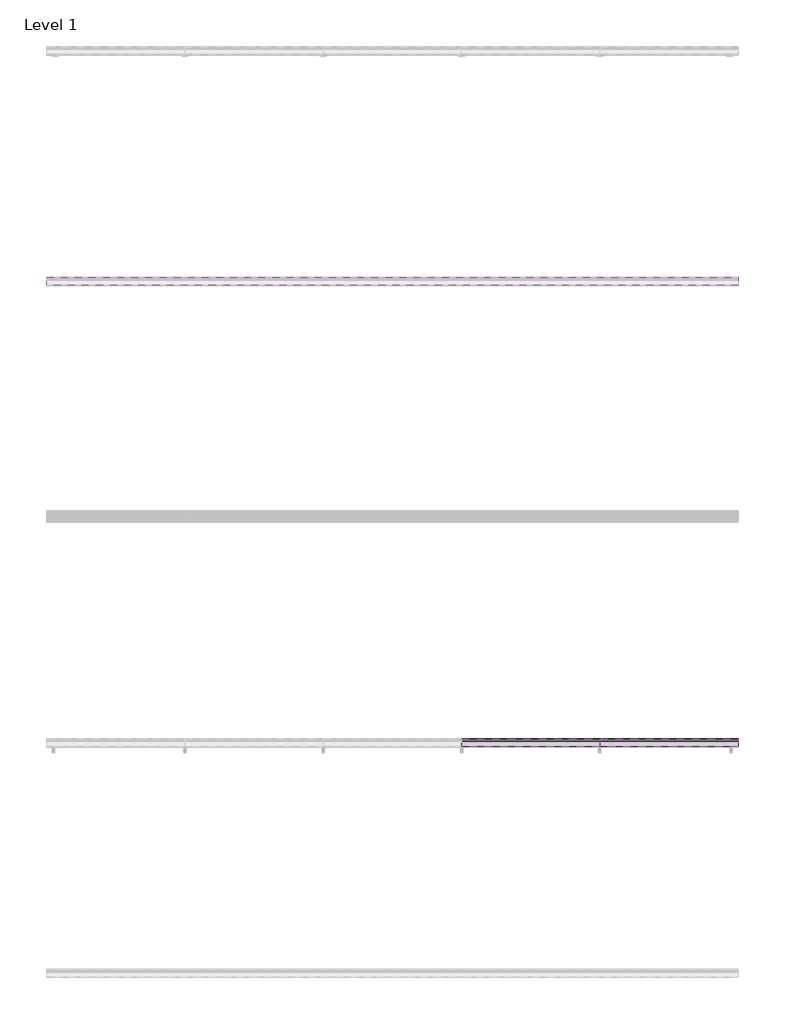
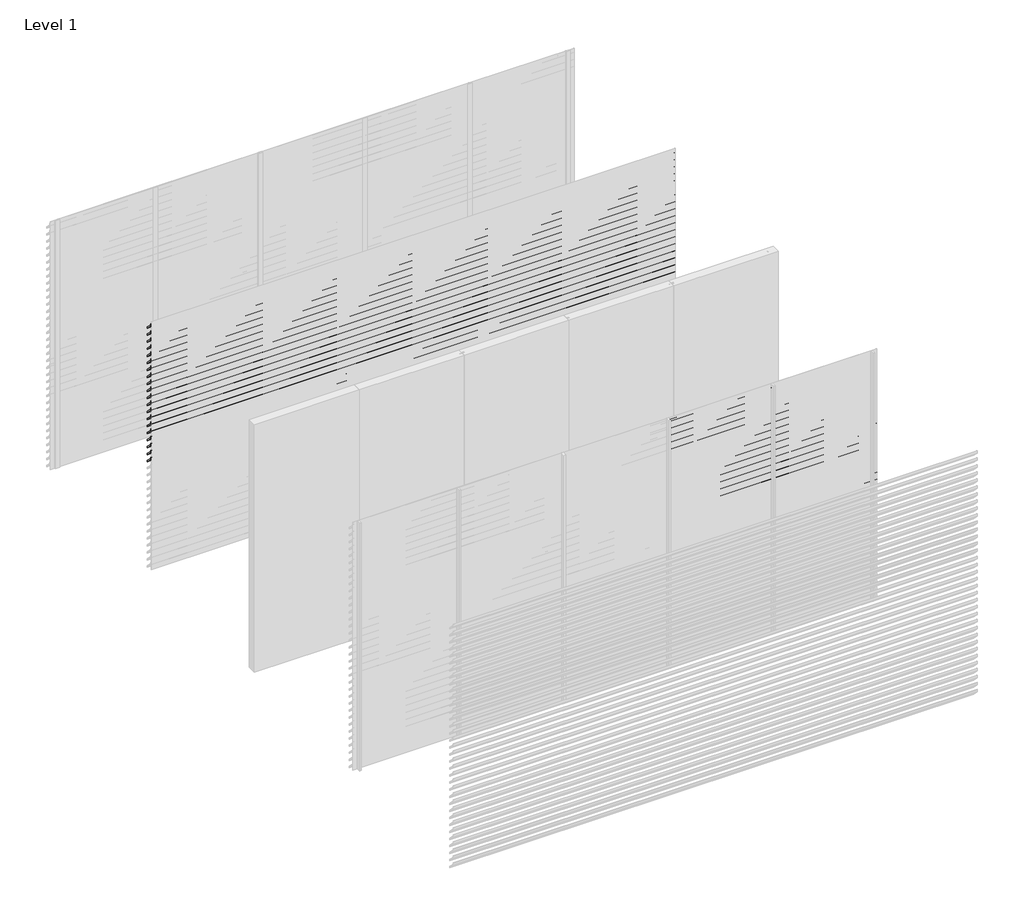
# One storey, part 8 of 10: 90 proxies.
"""IFC4 building model written with IfcOpenShell, lengths in millimetres."""

from ifc_helpers import new_model, si_unit, frame, origin, place, context, project, spatial, polyline, outline, extrude, element, save

model = new_model("IFC4")

# Units and contexts
model_context = context("Model", 3, world=origin())
ifc_project = project(units=[si_unit("LENGTHUNIT", "METRE", prefix="MILLI")], contexts=[model_context])

# Site, building, storey
site = spatial("IfcSite", under=ifc_project)
building = spatial("IfcBuilding", under=site)
storey = spatial("IfcBuildingStorey", under=building, Name="Level 1", Elevation=0.0)

# Proxies
placement = place(None, origin())
element("IfcBuildingElementProxy", 1, Name="Wall Sweeps", at=placement, inside=storey, context=model_context, shape_type="SweptSolid", body=[
    extrude(outline(polyline([(-1995.0, 2975.0), (-1995.0, 2962.0), (-1927.0, 2894.0), (-1927.0, 2876.0), (-1997.0, 2946.0), (-1997.0, 2975.0), (-1995.0, 2975.0)])), frame((0.0, 0.0, 0.0), z_axis=(1.0, 0.0, 0.0), x_axis=(0.0, 1.0, 0.0)), (0.0, 0.0, 1.0), 6000.0),
])
element("IfcBuildingElementProxy", 2, Name="Wall Sweeps", at=placement, inside=storey, context=model_context, shape_type="SweptSolid", body=[
    extrude(outline(polyline([(-1995.0, 2890.0), (-1995.0, 2877.0), (-1927.0, 2809.0), (-1927.0, 2791.0), (-1997.0, 2861.0), (-1997.0, 2890.0), (-1995.0, 2890.0)])), frame((0.0, 0.0, 0.0), z_axis=(1.0, 0.0, 0.0), x_axis=(0.0, 1.0, 0.0)), (0.0, 0.0, 1.0), 6000.0),
])
element("IfcBuildingElementProxy", 3, Name="Wall Sweeps", at=placement, inside=storey, context=model_context, shape_type="SweptSolid", body=[
    extrude(outline(polyline([(-1995.0, 2805.0), (-1995.0, 2792.0), (-1927.0, 2724.0), (-1927.0, 2706.0), (-1997.0, 2776.0), (-1997.0, 2805.0), (-1995.0, 2805.0)])), frame((0.0, 0.0, 0.0), z_axis=(1.0, 0.0, 0.0), x_axis=(0.0, 1.0, 0.0)), (0.0, 0.0, 1.0), 6000.0),
])
element("IfcBuildingElementProxy", 4, Name="Wall Sweeps", at=placement, inside=storey, context=model_context, shape_type="SweptSolid", body=[
    extrude(outline(polyline([(-1995.0, 2720.0), (-1995.0, 2707.0), (-1927.0, 2639.0), (-1927.0, 2621.0), (-1997.0, 2691.0), (-1997.0, 2720.0), (-1995.0, 2720.0)])), frame((0.0, 0.0, 0.0), z_axis=(1.0, 0.0, 0.0), x_axis=(0.0, 1.0, 0.0)), (0.0, 0.0, 1.0), 6000.0),
])
element("IfcBuildingElementProxy", 5, Name="Wall Sweeps", at=placement, inside=storey, context=model_context, shape_type="SweptSolid", body=[
    extrude(outline(polyline([(-1995.0, 2635.0), (-1995.0, 2622.0), (-1927.0, 2554.0), (-1927.0, 2536.0), (-1997.0, 2606.0), (-1997.0, 2635.0), (-1995.0, 2635.0)])), frame((0.0, 0.0, 0.0), z_axis=(1.0, 0.0, 0.0), x_axis=(0.0, 1.0, 0.0)), (0.0, 0.0, 1.0), 6000.0),
])
element("IfcBuildingElementProxy", 6, Name="Wall Sweeps", at=placement, inside=storey, context=model_context, shape_type="SweptSolid", body=[
    extrude(outline(polyline([(-1995.0, 2550.0), (-1995.0, 2537.0), (-1927.0, 2469.0), (-1927.0, 2451.0), (-1997.0, 2521.0), (-1997.0, 2550.0), (-1995.0, 2550.0)])), frame((0.0, 0.0, 0.0), z_axis=(1.0, 0.0, 0.0), x_axis=(0.0, 1.0, 0.0)), (0.0, 0.0, 1.0), 6000.0),
])
element("IfcBuildingElementProxy", 7, Name="Wall Sweeps", at=placement, inside=storey, context=model_context, shape_type="SweptSolid", body=[
    extrude(outline(polyline([(-1995.0, 2465.0), (-1995.0, 2452.0), (-1927.0, 2384.0), (-1927.0, 2366.0), (-1997.0, 2436.0), (-1997.0, 2465.0), (-1995.0, 2465.0)])), frame((0.0, 0.0, 0.0), z_axis=(1.0, 0.0, 0.0), x_axis=(0.0, 1.0, 0.0)), (0.0, 0.0, 1.0), 6000.0),
])
element("IfcBuildingElementProxy", 8, Name="Wall Sweeps", at=placement, inside=storey, context=model_context, shape_type="SweptSolid", body=[
    extrude(outline(polyline([(-1995.0, 2380.0), (-1995.0, 2367.0), (-1927.0, 2299.0), (-1927.0, 2281.0), (-1997.0, 2351.0), (-1997.0, 2380.0), (-1995.0, 2380.0)])), frame((0.0, 0.0, 0.0), z_axis=(1.0, 0.0, 0.0), x_axis=(0.0, 1.0, 0.0)), (0.0, 0.0, 1.0), 6000.0),
])
element("IfcBuildingElementProxy", 9, Name="Wall Sweeps", at=placement, inside=storey, context=model_context, shape_type="SweptSolid", body=[
    extrude(outline(polyline([(-1995.0, 2295.0), (-1995.0, 2282.0), (-1927.0, 2214.0), (-1927.0, 2196.0), (-1997.0, 2266.0), (-1997.0, 2295.0), (-1995.0, 2295.0)])), frame((0.0, 0.0, 0.0), z_axis=(1.0, 0.0, 0.0), x_axis=(0.0, 1.0, 0.0)), (0.0, 0.0, 1.0), 6000.0),
])
element("IfcBuildingElementProxy", 10, Name="Wall Sweeps", at=placement, inside=storey, context=model_context, shape_type="SweptSolid", body=[
    extrude(outline(polyline([(-1995.0, 2210.0), (-1995.0, 2197.0), (-1927.0, 2129.0), (-1927.0, 2111.0), (-1997.0, 2181.0), (-1997.0, 2210.0), (-1995.0, 2210.0)])), frame((0.0, 0.0, 0.0), z_axis=(1.0, 0.0, 0.0), x_axis=(0.0, 1.0, 0.0)), (0.0, 0.0, 1.0), 6000.0),
])
element("IfcBuildingElementProxy", 11, Name="Wall Sweeps", at=placement, inside=storey, context=model_context, shape_type="SweptSolid", body=[
    extrude(outline(polyline([(-1995.0, 2125.0), (-1995.0, 2112.0), (-1927.0, 2044.0), (-1927.0, 2026.0), (-1997.0, 2096.0), (-1997.0, 2125.0), (-1995.0, 2125.0)])), frame((0.0, 0.0, 0.0), z_axis=(1.0, 0.0, 0.0), x_axis=(0.0, 1.0, 0.0)), (0.0, 0.0, 1.0), 6000.0),
])
element("IfcBuildingElementProxy", 12, Name="Wall Sweeps", at=placement, inside=storey, context=model_context, shape_type="SweptSolid", body=[
    extrude(outline(polyline([(-1995.0, 2040.0), (-1995.0, 2027.0), (-1927.0, 1959.0), (-1927.0, 1941.0), (-1997.0, 2011.0), (-1997.0, 2040.0), (-1995.0, 2040.0)])), frame((0.0, 0.0, 0.0), z_axis=(1.0, 0.0, 0.0), x_axis=(0.0, 1.0, 0.0)), (0.0, 0.0, 1.0), 6000.0),
])
element("IfcBuildingElementProxy", 13, Name="Wall Sweeps", at=placement, inside=storey, context=model_context, shape_type="SweptSolid", body=[
    extrude(outline(polyline([(-1995.0, 1955.0), (-1995.0, 1942.0), (-1927.0, 1874.0), (-1927.0, 1856.0), (-1997.0, 1926.0), (-1997.0, 1955.0), (-1995.0, 1955.0)])), frame((0.0, 0.0, 0.0), z_axis=(1.0, 0.0, 0.0), x_axis=(0.0, 1.0, 0.0)), (0.0, 0.0, 1.0), 6000.0),
])
element("IfcBuildingElementProxy", 14, Name="Wall Sweeps", at=placement, inside=storey, context=model_context, shape_type="SweptSolid", body=[
    extrude(outline(polyline([(-1995.0, 1870.0), (-1995.0, 1857.0), (-1927.0, 1789.0), (-1927.0, 1771.0), (-1997.0, 1841.0), (-1997.0, 1870.0), (-1995.0, 1870.0)])), frame((0.0, 0.0, 0.0), z_axis=(1.0, 0.0, 0.0), x_axis=(0.0, 1.0, 0.0)), (0.0, 0.0, 1.0), 6000.0),
])
element("IfcBuildingElementProxy", 15, Name="Wall Sweeps", at=placement, inside=storey, context=model_context, shape_type="SweptSolid", body=[
    extrude(outline(polyline([(-1995.0, 1785.0), (-1995.0, 1772.0), (-1927.0, 1704.0), (-1927.0, 1686.0), (-1997.0, 1756.0), (-1997.0, 1785.0), (-1995.0, 1785.0)])), frame((0.0, 0.0, 0.0), z_axis=(1.0, 0.0, 0.0), x_axis=(0.0, 1.0, 0.0)), (0.0, 0.0, 1.0), 6000.0),
])
element("IfcBuildingElementProxy", 16, Name="Wall Sweeps", at=placement, inside=storey, context=model_context, shape_type="SweptSolid", body=[
    extrude(outline(polyline([(-1995.0, 1700.0), (-1995.0, 1687.0), (-1927.0, 1619.0), (-1927.0, 1601.0), (-1997.0, 1671.0), (-1997.0, 1700.0), (-1995.0, 1700.0)])), frame((0.0, 0.0, 0.0), z_axis=(1.0, 0.0, 0.0), x_axis=(0.0, 1.0, 0.0)), (0.0, 0.0, 1.0), 6000.0),
])
element("IfcBuildingElementProxy", 17, Name="Wall Sweeps", at=placement, inside=storey, context=model_context, shape_type="SweptSolid", body=[
    extrude(outline(polyline([(-1995.0, 1615.0), (-1995.0, 1602.0), (-1927.0, 1534.0), (-1927.0, 1516.0), (-1997.0, 1586.0), (-1997.0, 1615.0), (-1995.0, 1615.0)])), frame((0.0, 0.0, 0.0), z_axis=(1.0, 0.0, 0.0), x_axis=(0.0, 1.0, 0.0)), (0.0, 0.0, 1.0), 6000.0),
])
element("IfcBuildingElementProxy", 18, Name="Wall Sweeps", at=placement, inside=storey, context=model_context, shape_type="SweptSolid", body=[
    extrude(outline(polyline([(-1995.0, 1530.0), (-1995.0, 1517.0), (-1927.0, 1449.0), (-1927.0, 1431.0), (-1997.0, 1501.0), (-1997.0, 1530.0), (-1995.0, 1530.0)])), frame((0.0, 0.0, 0.0), z_axis=(1.0, 0.0, 0.0), x_axis=(0.0, 1.0, 0.0)), (0.0, 0.0, 1.0), 6000.0),
])
element("IfcBuildingElementProxy", 19, Name="Wall Sweeps", at=placement, inside=storey, context=model_context, shape_type="SweptSolid", body=[
    extrude(outline(polyline([(-1995.0, 1445.0), (-1995.0, 1432.0), (-1927.0, 1364.0), (-1927.0, 1346.0), (-1997.0, 1416.0), (-1997.0, 1445.0), (-1995.0, 1445.0)])), frame((0.0, 0.0, 0.0), z_axis=(1.0, 0.0, 0.0), x_axis=(0.0, 1.0, 0.0)), (0.0, 0.0, 1.0), 6000.0),
])
element("IfcBuildingElementProxy", 20, Name="Wall Sweeps", at=placement, inside=storey, context=model_context, shape_type="SweptSolid", body=[
    extrude(outline(polyline([(-1995.0, 1360.0), (-1995.0, 1347.0), (-1927.0, 1279.0), (-1927.0, 1261.0), (-1997.0, 1331.0), (-1997.0, 1360.0), (-1995.0, 1360.0)])), frame((0.0, 0.0, 0.0), z_axis=(1.0, 0.0, 0.0), x_axis=(0.0, 1.0, 0.0)), (0.0, 0.0, 1.0), 6000.0),
])
element("IfcBuildingElementProxy", 21, Name="Wall Sweeps", at=placement, inside=storey, context=model_context, shape_type="SweptSolid", body=[
    extrude(outline(polyline([(-5995.0, 2975.0), (-5995.0, 2962.0), (-5927.0, 2894.0), (-5927.0, 2876.0), (-5997.0, 2946.0), (-5997.0, 2975.0), (-5995.0, 2975.0)])), frame((3600.0, 0.0, 0.0), z_axis=(1.0, 0.0, 0.0), x_axis=(0.0, 1.0, 0.0)), (0.0, 0.0, 1.0), 1200.0),
])
element("IfcBuildingElementProxy", 22, Name="Wall Sweeps", at=placement, inside=storey, context=model_context, shape_type="SweptSolid", body=[
    extrude(outline(polyline([(-5995.0, 2890.0), (-5995.0, 2877.0), (-5927.0, 2809.0), (-5927.0, 2791.0), (-5997.0, 2861.0), (-5997.0, 2890.0), (-5995.0, 2890.0)])), frame((3600.0, 0.0, 0.0), z_axis=(1.0, 0.0, 0.0), x_axis=(0.0, 1.0, 0.0)), (0.0, 0.0, 1.0), 1200.0),
])
element("IfcBuildingElementProxy", 23, Name="Wall Sweeps", at=placement, inside=storey, context=model_context, shape_type="SweptSolid", body=[
    extrude(outline(polyline([(-5995.0, 2805.0), (-5995.0, 2792.0), (-5927.0, 2724.0), (-5927.0, 2706.0), (-5997.0, 2776.0), (-5997.0, 2805.0), (-5995.0, 2805.0)])), frame((3600.0, 0.0, 0.0), z_axis=(1.0, 0.0, 0.0), x_axis=(0.0, 1.0, 0.0)), (0.0, 0.0, 1.0), 1200.0),
])
element("IfcBuildingElementProxy", 24, Name="Wall Sweeps", at=placement, inside=storey, context=model_context, shape_type="SweptSolid", body=[
    extrude(outline(polyline([(-5995.0, 2720.0), (-5995.0, 2707.0), (-5927.0, 2639.0), (-5927.0, 2621.0), (-5997.0, 2691.0), (-5997.0, 2720.0), (-5995.0, 2720.0)])), frame((3600.0, 0.0, 0.0), z_axis=(1.0, 0.0, 0.0), x_axis=(0.0, 1.0, 0.0)), (0.0, 0.0, 1.0), 1200.0),
])
element("IfcBuildingElementProxy", 25, Name="Wall Sweeps", at=placement, inside=storey, context=model_context, shape_type="SweptSolid", body=[
    extrude(outline(polyline([(-5995.0, 2635.0), (-5995.0, 2622.0), (-5927.0, 2554.0), (-5927.0, 2536.0), (-5997.0, 2606.0), (-5997.0, 2635.0), (-5995.0, 2635.0)])), frame((3600.0, 0.0, 0.0), z_axis=(1.0, 0.0, 0.0), x_axis=(0.0, 1.0, 0.0)), (0.0, 0.0, 1.0), 1200.0),
])
element("IfcBuildingElementProxy", 26, Name="Wall Sweeps", at=placement, inside=storey, context=model_context, shape_type="SweptSolid", body=[
    extrude(outline(polyline([(-5995.0, 2550.0), (-5995.0, 2537.0), (-5927.0, 2469.0), (-5927.0, 2451.0), (-5997.0, 2521.0), (-5997.0, 2550.0), (-5995.0, 2550.0)])), frame((3600.0, 0.0, 0.0), z_axis=(1.0, 0.0, 0.0), x_axis=(0.0, 1.0, 0.0)), (0.0, 0.0, 1.0), 1200.0),
])
element("IfcBuildingElementProxy", 27, Name="Wall Sweeps", at=placement, inside=storey, context=model_context, shape_type="SweptSolid", body=[
    extrude(outline(polyline([(-5995.0, 2465.0), (-5995.0, 2452.0), (-5927.0, 2384.0), (-5927.0, 2366.0), (-5997.0, 2436.0), (-5997.0, 2465.0), (-5995.0, 2465.0)])), frame((3600.0, 0.0, 0.0), z_axis=(1.0, 0.0, 0.0), x_axis=(0.0, 1.0, 0.0)), (0.0, 0.0, 1.0), 1200.0),
])
element("IfcBuildingElementProxy", 28, Name="Wall Sweeps", at=placement, inside=storey, context=model_context, shape_type="SweptSolid", body=[
    extrude(outline(polyline([(-5995.0, 2380.0), (-5995.0, 2367.0), (-5927.0, 2299.0), (-5927.0, 2281.0), (-5997.0, 2351.0), (-5997.0, 2380.0), (-5995.0, 2380.0)])), frame((3600.0, 0.0, 0.0), z_axis=(1.0, 0.0, 0.0), x_axis=(0.0, 1.0, 0.0)), (0.0, 0.0, 1.0), 1200.0),
])
element("IfcBuildingElementProxy", 29, Name="Wall Sweeps", at=placement, inside=storey, context=model_context, shape_type="SweptSolid", body=[
    extrude(outline(polyline([(-5995.0, 2295.0), (-5995.0, 2282.0), (-5927.0, 2214.0), (-5927.0, 2196.0), (-5997.0, 2266.0), (-5997.0, 2295.0), (-5995.0, 2295.0)])), frame((3600.0, 0.0, 0.0), z_axis=(1.0, 0.0, 0.0), x_axis=(0.0, 1.0, 0.0)), (0.0, 0.0, 1.0), 1200.0),
])
element("IfcBuildingElementProxy", 30, Name="Wall Sweeps", at=placement, inside=storey, context=model_context, shape_type="SweptSolid", body=[
    extrude(outline(polyline([(-5995.0, 2210.0), (-5995.0, 2197.0), (-5927.0, 2129.0), (-5927.0, 2111.0), (-5997.0, 2181.0), (-5997.0, 2210.0), (-5995.0, 2210.0)])), frame((3600.0, 0.0, 0.0), z_axis=(1.0, 0.0, 0.0), x_axis=(0.0, 1.0, 0.0)), (0.0, 0.0, 1.0), 1200.0),
])
element("IfcBuildingElementProxy", 31, Name="Wall Sweeps", at=placement, inside=storey, context=model_context, shape_type="SweptSolid", body=[
    extrude(outline(polyline([(-5995.0, 2125.0), (-5995.0, 2112.0), (-5927.0, 2044.0), (-5927.0, 2026.0), (-5997.0, 2096.0), (-5997.0, 2125.0), (-5995.0, 2125.0)])), frame((3600.0, 0.0, 0.0), z_axis=(1.0, 0.0, 0.0), x_axis=(0.0, 1.0, 0.0)), (0.0, 0.0, 1.0), 1200.0),
])
element("IfcBuildingElementProxy", 32, Name="Wall Sweeps", at=placement, inside=storey, context=model_context, shape_type="SweptSolid", body=[
    extrude(outline(polyline([(-5995.0, 2040.0), (-5995.0, 2027.0), (-5927.0, 1959.0), (-5927.0, 1941.0), (-5997.0, 2011.0), (-5997.0, 2040.0), (-5995.0, 2040.0)])), frame((3600.0, 0.0, 0.0), z_axis=(1.0, 0.0, 0.0), x_axis=(0.0, 1.0, 0.0)), (0.0, 0.0, 1.0), 1200.0),
])
element("IfcBuildingElementProxy", 33, Name="Wall Sweeps", at=placement, inside=storey, context=model_context, shape_type="SweptSolid", body=[
    extrude(outline(polyline([(-5995.0, 1955.0), (-5995.0, 1942.0), (-5927.0, 1874.0), (-5927.0, 1856.0), (-5997.0, 1926.0), (-5997.0, 1955.0), (-5995.0, 1955.0)])), frame((3600.0, 0.0, 0.0), z_axis=(1.0, 0.0, 0.0), x_axis=(0.0, 1.0, 0.0)), (0.0, 0.0, 1.0), 1200.0),
])
element("IfcBuildingElementProxy", 34, Name="Wall Sweeps", at=placement, inside=storey, context=model_context, shape_type="SweptSolid", body=[
    extrude(outline(polyline([(-5995.0, 1870.0), (-5995.0, 1857.0), (-5927.0, 1789.0), (-5927.0, 1771.0), (-5997.0, 1841.0), (-5997.0, 1870.0), (-5995.0, 1870.0)])), frame((3600.0, 0.0, 0.0), z_axis=(1.0, 0.0, 0.0), x_axis=(0.0, 1.0, 0.0)), (0.0, 0.0, 1.0), 1200.0),
])
element("IfcBuildingElementProxy", 35, Name="Wall Sweeps", at=placement, inside=storey, context=model_context, shape_type="SweptSolid", body=[
    extrude(outline(polyline([(-5995.0, 1785.0), (-5995.0, 1772.0), (-5927.0, 1704.0), (-5927.0, 1686.0), (-5997.0, 1756.0), (-5997.0, 1785.0), (-5995.0, 1785.0)])), frame((3600.0, 0.0, 0.0), z_axis=(1.0, 0.0, 0.0), x_axis=(0.0, 1.0, 0.0)), (0.0, 0.0, 1.0), 1200.0),
])
element("IfcBuildingElementProxy", 36, Name="Wall Sweeps", at=placement, inside=storey, context=model_context, shape_type="SweptSolid", body=[
    extrude(outline(polyline([(-5995.0, 1700.0), (-5995.0, 1687.0), (-5927.0, 1619.0), (-5927.0, 1601.0), (-5997.0, 1671.0), (-5997.0, 1700.0), (-5995.0, 1700.0)])), frame((3600.0, 0.0, 0.0), z_axis=(1.0, 0.0, 0.0), x_axis=(0.0, 1.0, 0.0)), (0.0, 0.0, 1.0), 1200.0),
])
element("IfcBuildingElementProxy", 37, Name="Wall Sweeps", at=placement, inside=storey, context=model_context, shape_type="SweptSolid", body=[
    extrude(outline(polyline([(-5995.0, 1615.0), (-5995.0, 1602.0), (-5927.0, 1534.0), (-5927.0, 1516.0), (-5997.0, 1586.0), (-5997.0, 1615.0), (-5995.0, 1615.0)])), frame((3600.0, 0.0, 0.0), z_axis=(1.0, 0.0, 0.0), x_axis=(0.0, 1.0, 0.0)), (0.0, 0.0, 1.0), 1200.0),
])
element("IfcBuildingElementProxy", 38, Name="Wall Sweeps", at=placement, inside=storey, context=model_context, shape_type="SweptSolid", body=[
    extrude(outline(polyline([(-5995.0, 1530.0), (-5995.0, 1517.0), (-5927.0, 1449.0), (-5927.0, 1431.0), (-5997.0, 1501.0), (-5997.0, 1530.0), (-5995.0, 1530.0)])), frame((3600.0, 0.0, 0.0), z_axis=(1.0, 0.0, 0.0), x_axis=(0.0, 1.0, 0.0)), (0.0, 0.0, 1.0), 1200.0),
])
element("IfcBuildingElementProxy", 39, Name="Wall Sweeps", at=placement, inside=storey, context=model_context, shape_type="SweptSolid", body=[
    extrude(outline(polyline([(-5995.0, 1445.0), (-5995.0, 1432.0), (-5927.0, 1364.0), (-5927.0, 1346.0), (-5997.0, 1416.0), (-5997.0, 1445.0), (-5995.0, 1445.0)])), frame((3600.0, 0.0, 0.0), z_axis=(1.0, 0.0, 0.0), x_axis=(0.0, 1.0, 0.0)), (0.0, 0.0, 1.0), 1200.0),
])
element("IfcBuildingElementProxy", 40, Name="Wall Sweeps", at=placement, inside=storey, context=model_context, shape_type="SweptSolid", body=[
    extrude(outline(polyline([(-5995.0, 1360.0), (-5995.0, 1347.0), (-5927.0, 1279.0), (-5927.0, 1261.0), (-5997.0, 1331.0), (-5997.0, 1360.0), (-5995.0, 1360.0)])), frame((3600.0, 0.0, 0.0), z_axis=(1.0, 0.0, 0.0), x_axis=(0.0, 1.0, 0.0)), (0.0, 0.0, 1.0), 1200.0),
])
element("IfcBuildingElementProxy", 41, Name="Wall Sweeps", at=placement, inside=storey, context=model_context, shape_type="SweptSolid", body=[
    extrude(outline(polyline([(-5995.0, 1275.0), (-5995.0, 1262.0), (-5927.0, 1194.0), (-5927.0, 1176.0), (-5997.0, 1246.0), (-5997.0, 1275.0), (-5995.0, 1275.0)])), frame((3600.0, 0.0, 0.0), z_axis=(1.0, 0.0, 0.0), x_axis=(0.0, 1.0, 0.0)), (0.0, 0.0, 1.0), 1200.0),
])
element("IfcBuildingElementProxy", 42, Name="Wall Sweeps", at=placement, inside=storey, context=model_context, shape_type="SweptSolid", body=[
    extrude(outline(polyline([(-5995.0, 1190.0), (-5995.0, 1177.0), (-5927.0, 1109.0), (-5927.0, 1091.0), (-5997.0, 1161.0), (-5997.0, 1190.0), (-5995.0, 1190.0)])), frame((3600.0, 0.0, 0.0), z_axis=(1.0, 0.0, 0.0), x_axis=(0.0, 1.0, 0.0)), (0.0, 0.0, 1.0), 1200.0),
])
element("IfcBuildingElementProxy", 43, Name="Wall Sweeps", at=placement, inside=storey, context=model_context, shape_type="SweptSolid", body=[
    extrude(outline(polyline([(-5995.0, 1105.0), (-5995.0, 1092.0), (-5927.0, 1024.0), (-5927.0, 1006.0), (-5997.0, 1076.0), (-5997.0, 1105.0), (-5995.0, 1105.0)])), frame((3600.0, 0.0, 0.0), z_axis=(1.0, 0.0, 0.0), x_axis=(0.0, 1.0, 0.0)), (0.0, 0.0, 1.0), 1200.0),
])
element("IfcBuildingElementProxy", 44, Name="Wall Sweeps", at=placement, inside=storey, context=model_context, shape_type="SweptSolid", body=[
    extrude(outline(polyline([(-5995.0, 1020.0), (-5995.0, 1007.0), (-5927.0, 939.0), (-5927.0, 921.0), (-5997.0, 991.0), (-5997.0, 1020.0), (-5995.0, 1020.0)])), frame((3600.0, 0.0, 0.0), z_axis=(1.0, 0.0, 0.0), x_axis=(0.0, 1.0, 0.0)), (0.0, 0.0, 1.0), 1200.0),
])
element("IfcBuildingElementProxy", 45, Name="Wall Sweeps", at=placement, inside=storey, context=model_context, shape_type="SweptSolid", body=[
    extrude(outline(polyline([(-5995.0, 935.0), (-5995.0, 922.0), (-5927.0, 854.0), (-5927.0, 836.0), (-5997.0, 906.0), (-5997.0, 935.0), (-5995.0, 935.0)])), frame((3600.0, 0.0, 0.0), z_axis=(1.0, 0.0, 0.0), x_axis=(0.0, 1.0, 0.0)), (0.0, 0.0, 1.0), 1200.0),
])
element("IfcBuildingElementProxy", 46, Name="Wall Sweeps", at=placement, inside=storey, context=model_context, shape_type="SweptSolid", body=[
    extrude(outline(polyline([(-5995.0, 850.0), (-5995.0, 837.0), (-5927.0, 769.0), (-5927.0, 751.0), (-5997.0, 821.0), (-5997.0, 850.0), (-5995.0, 850.0)])), frame((3600.0, 0.0, 0.0), z_axis=(1.0, 0.0, 0.0), x_axis=(0.0, 1.0, 0.0)), (0.0, 0.0, 1.0), 1200.0),
])
element("IfcBuildingElementProxy", 47, Name="Wall Sweeps", at=placement, inside=storey, context=model_context, shape_type="SweptSolid", body=[
    extrude(outline(polyline([(-5995.0, 765.0), (-5995.0, 752.0), (-5927.0, 684.0), (-5927.0, 666.0), (-5997.0, 736.0), (-5997.0, 765.0), (-5995.0, 765.0)])), frame((3600.0, 0.0, 0.0), z_axis=(1.0, 0.0, 0.0), x_axis=(0.0, 1.0, 0.0)), (0.0, 0.0, 1.0), 1200.0),
])
element("IfcBuildingElementProxy", 48, Name="Wall Sweeps", at=placement, inside=storey, context=model_context, shape_type="SweptSolid", body=[
    extrude(outline(polyline([(-5995.0, 680.0), (-5995.0, 667.0), (-5927.0, 599.0), (-5927.0, 581.0), (-5997.0, 651.0), (-5997.0, 680.0), (-5995.0, 680.0)])), frame((3600.0, 0.0, 0.0), z_axis=(1.0, 0.0, 0.0), x_axis=(0.0, 1.0, 0.0)), (0.0, 0.0, 1.0), 1200.0),
])
element("IfcBuildingElementProxy", 49, Name="Wall Sweeps", at=placement, inside=storey, context=model_context, shape_type="SweptSolid", body=[
    extrude(outline(polyline([(-5995.0, 595.0), (-5995.0, 582.0), (-5927.0, 514.0), (-5927.0, 496.0), (-5997.0, 566.0), (-5997.0, 595.0), (-5995.0, 595.0)])), frame((3600.0, 0.0, 0.0), z_axis=(1.0, 0.0, 0.0), x_axis=(0.0, 1.0, 0.0)), (0.0, 0.0, 1.0), 1200.0),
])
element("IfcBuildingElementProxy", 50, Name="Wall Sweeps", at=placement, inside=storey, context=model_context, shape_type="SweptSolid", body=[
    extrude(outline(polyline([(-5995.0, 510.0), (-5995.0, 497.0), (-5927.0, 429.0), (-5927.0, 411.0), (-5997.0, 481.0), (-5997.0, 510.0), (-5995.0, 510.0)])), frame((3600.0, 0.0, 0.0), z_axis=(1.0, 0.0, 0.0), x_axis=(0.0, 1.0, 0.0)), (0.0, 0.0, 1.0), 1200.0),
])
element("IfcBuildingElementProxy", 51, Name="Wall Sweeps", at=placement, inside=storey, context=model_context, shape_type="SweptSolid", body=[
    extrude(outline(polyline([(-5995.0, 425.0), (-5995.0, 412.0), (-5927.0, 344.0), (-5927.0, 326.0), (-5997.0, 396.0), (-5997.0, 425.0), (-5995.0, 425.0)])), frame((3600.0, 0.0, 0.0), z_axis=(1.0, 0.0, 0.0), x_axis=(0.0, 1.0, 0.0)), (0.0, 0.0, 1.0), 1200.0),
])
element("IfcBuildingElementProxy", 52, Name="Wall Sweeps", at=placement, inside=storey, context=model_context, shape_type="SweptSolid", body=[
    extrude(outline(polyline([(-5995.0, 340.0), (-5995.0, 327.0), (-5927.0, 259.0), (-5927.0, 241.0), (-5997.0, 311.0), (-5997.0, 340.0), (-5995.0, 340.0)])), frame((3600.0, 0.0, 0.0), z_axis=(1.0, 0.0, 0.0), x_axis=(0.0, 1.0, 0.0)), (0.0, 0.0, 1.0), 1200.0),
])
element("IfcBuildingElementProxy", 53, Name="Wall Sweeps", at=placement, inside=storey, context=model_context, shape_type="SweptSolid", body=[
    extrude(outline(polyline([(-5995.0, 255.0), (-5995.0, 242.0), (-5927.0, 174.0), (-5927.0, 156.0), (-5997.0, 226.0), (-5997.0, 255.0), (-5995.0, 255.0)])), frame((3600.0, 0.0, 0.0), z_axis=(1.0, 0.0, 0.0), x_axis=(0.0, 1.0, 0.0)), (0.0, 0.0, 1.0), 1200.0),
])
element("IfcBuildingElementProxy", 54, Name="Wall Sweeps", at=placement, inside=storey, context=model_context, shape_type="SweptSolid", body=[
    extrude(outline(polyline([(-5995.0, 170.0), (-5995.0, 157.0), (-5927.0, 89.0), (-5927.0, 71.0), (-5997.0, 141.0), (-5997.0, 170.0), (-5995.0, 170.0)])), frame((3600.0, 0.0, 0.0), z_axis=(1.0, 0.0, 0.0), x_axis=(0.0, 1.0, 0.0)), (0.0, 0.0, 1.0), 1200.0),
])
element("IfcBuildingElementProxy", 55, Name="Wall Sweeps", at=placement, inside=storey, context=model_context, shape_type="SweptSolid", body=[
    extrude(outline(polyline([(-5995.0, 85.0), (-5995.0, 72.0), (-5927.0, 4.0), (-5927.0, -14.0), (-5997.0, 56.0), (-5997.0, 85.0), (-5995.0, 85.0)])), frame((3600.0, 0.0, 0.0), z_axis=(1.0, 0.0, 0.0), x_axis=(0.0, 1.0, 0.0)), (0.0, 0.0, 1.0), 1200.0),
])
element("IfcBuildingElementProxy", 56, Name="Wall Sweeps", at=placement, inside=storey, context=model_context, shape_type="SweptSolid", body=[
    extrude(outline(polyline([(-5995.0, 2975.0), (-5995.0, 2962.0), (-5927.0, 2894.0), (-5927.0, 2876.0), (-5997.0, 2946.0), (-5997.0, 2975.0), (-5995.0, 2975.0)])), frame((4800.0, 0.0, 0.0), z_axis=(1.0, 0.0, 0.0), x_axis=(0.0, 1.0, 0.0)), (0.0, 0.0, 1.0), 1200.0),
])
element("IfcBuildingElementProxy", 57, Name="Wall Sweeps", at=placement, inside=storey, context=model_context, shape_type="SweptSolid", body=[
    extrude(outline(polyline([(-5995.0, 2890.0), (-5995.0, 2877.0), (-5927.0, 2809.0), (-5927.0, 2791.0), (-5997.0, 2861.0), (-5997.0, 2890.0), (-5995.0, 2890.0)])), frame((4800.0, 0.0, 0.0), z_axis=(1.0, 0.0, 0.0), x_axis=(0.0, 1.0, 0.0)), (0.0, 0.0, 1.0), 1200.0),
])
element("IfcBuildingElementProxy", 58, Name="Wall Sweeps", at=placement, inside=storey, context=model_context, shape_type="SweptSolid", body=[
    extrude(outline(polyline([(-5995.0, 2805.0), (-5995.0, 2792.0), (-5927.0, 2724.0), (-5927.0, 2706.0), (-5997.0, 2776.0), (-5997.0, 2805.0), (-5995.0, 2805.0)])), frame((4800.0, 0.0, 0.0), z_axis=(1.0, 0.0, 0.0), x_axis=(0.0, 1.0, 0.0)), (0.0, 0.0, 1.0), 1200.0),
])
element("IfcBuildingElementProxy", 59, Name="Wall Sweeps", at=placement, inside=storey, context=model_context, shape_type="SweptSolid", body=[
    extrude(outline(polyline([(-5995.0, 2720.0), (-5995.0, 2707.0), (-5927.0, 2639.0), (-5927.0, 2621.0), (-5997.0, 2691.0), (-5997.0, 2720.0), (-5995.0, 2720.0)])), frame((4800.0, 0.0, 0.0), z_axis=(1.0, 0.0, 0.0), x_axis=(0.0, 1.0, 0.0)), (0.0, 0.0, 1.0), 1200.0),
])
element("IfcBuildingElementProxy", 60, Name="Wall Sweeps", at=placement, inside=storey, context=model_context, shape_type="SweptSolid", body=[
    extrude(outline(polyline([(-5995.0, 2635.0), (-5995.0, 2622.0), (-5927.0, 2554.0), (-5927.0, 2536.0), (-5997.0, 2606.0), (-5997.0, 2635.0), (-5995.0, 2635.0)])), frame((4800.0, 0.0, 0.0), z_axis=(1.0, 0.0, 0.0), x_axis=(0.0, 1.0, 0.0)), (0.0, 0.0, 1.0), 1200.0),
])
element("IfcBuildingElementProxy", 61, Name="Wall Sweeps", at=placement, inside=storey, context=model_context, shape_type="SweptSolid", body=[
    extrude(outline(polyline([(-5995.0, 2550.0), (-5995.0, 2537.0), (-5927.0, 2469.0), (-5927.0, 2451.0), (-5997.0, 2521.0), (-5997.0, 2550.0), (-5995.0, 2550.0)])), frame((4800.0, 0.0, 0.0), z_axis=(1.0, 0.0, 0.0), x_axis=(0.0, 1.0, 0.0)), (0.0, 0.0, 1.0), 1200.0),
])
element("IfcBuildingElementProxy", 62, Name="Wall Sweeps", at=placement, inside=storey, context=model_context, shape_type="SweptSolid", body=[
    extrude(outline(polyline([(-5995.0, 2465.0), (-5995.0, 2452.0), (-5927.0, 2384.0), (-5927.0, 2366.0), (-5997.0, 2436.0), (-5997.0, 2465.0), (-5995.0, 2465.0)])), frame((4800.0, 0.0, 0.0), z_axis=(1.0, 0.0, 0.0), x_axis=(0.0, 1.0, 0.0)), (0.0, 0.0, 1.0), 1200.0),
])
element("IfcBuildingElementProxy", 63, Name="Wall Sweeps", at=placement, inside=storey, context=model_context, shape_type="SweptSolid", body=[
    extrude(outline(polyline([(-5995.0, 2380.0), (-5995.0, 2367.0), (-5927.0, 2299.0), (-5927.0, 2281.0), (-5997.0, 2351.0), (-5997.0, 2380.0), (-5995.0, 2380.0)])), frame((4800.0, 0.0, 0.0), z_axis=(1.0, 0.0, 0.0), x_axis=(0.0, 1.0, 0.0)), (0.0, 0.0, 1.0), 1200.0),
])
element("IfcBuildingElementProxy", 64, Name="Wall Sweeps", at=placement, inside=storey, context=model_context, shape_type="SweptSolid", body=[
    extrude(outline(polyline([(-5995.0, 2295.0), (-5995.0, 2282.0), (-5927.0, 2214.0), (-5927.0, 2196.0), (-5997.0, 2266.0), (-5997.0, 2295.0), (-5995.0, 2295.0)])), frame((4800.0, 0.0, 0.0), z_axis=(1.0, 0.0, 0.0), x_axis=(0.0, 1.0, 0.0)), (0.0, 0.0, 1.0), 1200.0),
])
element("IfcBuildingElementProxy", 65, Name="Wall Sweeps", at=placement, inside=storey, context=model_context, shape_type="SweptSolid", body=[
    extrude(outline(polyline([(-5995.0, 2210.0), (-5995.0, 2197.0), (-5927.0, 2129.0), (-5927.0, 2111.0), (-5997.0, 2181.0), (-5997.0, 2210.0), (-5995.0, 2210.0)])), frame((4800.0, 0.0, 0.0), z_axis=(1.0, 0.0, 0.0), x_axis=(0.0, 1.0, 0.0)), (0.0, 0.0, 1.0), 1200.0),
])
element("IfcBuildingElementProxy", 66, Name="Wall Sweeps", at=placement, inside=storey, context=model_context, shape_type="SweptSolid", body=[
    extrude(outline(polyline([(-5995.0, 2125.0), (-5995.0, 2112.0), (-5927.0, 2044.0), (-5927.0, 2026.0), (-5997.0, 2096.0), (-5997.0, 2125.0), (-5995.0, 2125.0)])), frame((4800.0, 0.0, 0.0), z_axis=(1.0, 0.0, 0.0), x_axis=(0.0, 1.0, 0.0)), (0.0, 0.0, 1.0), 1200.0),
])
element("IfcBuildingElementProxy", 67, Name="Wall Sweeps", at=placement, inside=storey, context=model_context, shape_type="SweptSolid", body=[
    extrude(outline(polyline([(-5995.0, 2040.0), (-5995.0, 2027.0), (-5927.0, 1959.0), (-5927.0, 1941.0), (-5997.0, 2011.0), (-5997.0, 2040.0), (-5995.0, 2040.0)])), frame((4800.0, 0.0, 0.0), z_axis=(1.0, 0.0, 0.0), x_axis=(0.0, 1.0, 0.0)), (0.0, 0.0, 1.0), 1200.0),
])
element("IfcBuildingElementProxy", 68, Name="Wall Sweeps", at=placement, inside=storey, context=model_context, shape_type="SweptSolid", body=[
    extrude(outline(polyline([(-5995.0, 1955.0), (-5995.0, 1942.0), (-5927.0, 1874.0), (-5927.0, 1856.0), (-5997.0, 1926.0), (-5997.0, 1955.0), (-5995.0, 1955.0)])), frame((4800.0, 0.0, 0.0), z_axis=(1.0, 0.0, 0.0), x_axis=(0.0, 1.0, 0.0)), (0.0, 0.0, 1.0), 1200.0),
])
element("IfcBuildingElementProxy", 69, Name="Wall Sweeps", at=placement, inside=storey, context=model_context, shape_type="SweptSolid", body=[
    extrude(outline(polyline([(-5995.0, 1870.0), (-5995.0, 1857.0), (-5927.0, 1789.0), (-5927.0, 1771.0), (-5997.0, 1841.0), (-5997.0, 1870.0), (-5995.0, 1870.0)])), frame((4800.0, 0.0, 0.0), z_axis=(1.0, 0.0, 0.0), x_axis=(0.0, 1.0, 0.0)), (0.0, 0.0, 1.0), 1200.0),
])
element("IfcBuildingElementProxy", 70, Name="Wall Sweeps", at=placement, inside=storey, context=model_context, shape_type="SweptSolid", body=[
    extrude(outline(polyline([(-5995.0, 1785.0), (-5995.0, 1772.0), (-5927.0, 1704.0), (-5927.0, 1686.0), (-5997.0, 1756.0), (-5997.0, 1785.0), (-5995.0, 1785.0)])), frame((4800.0, 0.0, 0.0), z_axis=(1.0, 0.0, 0.0), x_axis=(0.0, 1.0, 0.0)), (0.0, 0.0, 1.0), 1200.0),
])
element("IfcBuildingElementProxy", 71, Name="Wall Sweeps", at=placement, inside=storey, context=model_context, shape_type="SweptSolid", body=[
    extrude(outline(polyline([(-5995.0, 1700.0), (-5995.0, 1687.0), (-5927.0, 1619.0), (-5927.0, 1601.0), (-5997.0, 1671.0), (-5997.0, 1700.0), (-5995.0, 1700.0)])), frame((4800.0, 0.0, 0.0), z_axis=(1.0, 0.0, 0.0), x_axis=(0.0, 1.0, 0.0)), (0.0, 0.0, 1.0), 1200.0),
])
element("IfcBuildingElementProxy", 72, Name="Wall Sweeps", at=placement, inside=storey, context=model_context, shape_type="SweptSolid", body=[
    extrude(outline(polyline([(-5995.0, 1615.0), (-5995.0, 1602.0), (-5927.0, 1534.0), (-5927.0, 1516.0), (-5997.0, 1586.0), (-5997.0, 1615.0), (-5995.0, 1615.0)])), frame((4800.0, 0.0, 0.0), z_axis=(1.0, 0.0, 0.0), x_axis=(0.0, 1.0, 0.0)), (0.0, 0.0, 1.0), 1200.0),
])
element("IfcBuildingElementProxy", 73, Name="Wall Sweeps", at=placement, inside=storey, context=model_context, shape_type="SweptSolid", body=[
    extrude(outline(polyline([(-5995.0, 1530.0), (-5995.0, 1517.0), (-5927.0, 1449.0), (-5927.0, 1431.0), (-5997.0, 1501.0), (-5997.0, 1530.0), (-5995.0, 1530.0)])), frame((4800.0, 0.0, 0.0), z_axis=(1.0, 0.0, 0.0), x_axis=(0.0, 1.0, 0.0)), (0.0, 0.0, 1.0), 1200.0),
])
element("IfcBuildingElementProxy", 74, Name="Wall Sweeps", at=placement, inside=storey, context=model_context, shape_type="SweptSolid", body=[
    extrude(outline(polyline([(-5995.0, 1445.0), (-5995.0, 1432.0), (-5927.0, 1364.0), (-5927.0, 1346.0), (-5997.0, 1416.0), (-5997.0, 1445.0), (-5995.0, 1445.0)])), frame((4800.0, 0.0, 0.0), z_axis=(1.0, 0.0, 0.0), x_axis=(0.0, 1.0, 0.0)), (0.0, 0.0, 1.0), 1200.0),
])
element("IfcBuildingElementProxy", 75, Name="Wall Sweeps", at=placement, inside=storey, context=model_context, shape_type="SweptSolid", body=[
    extrude(outline(polyline([(-5995.0, 1360.0), (-5995.0, 1347.0), (-5927.0, 1279.0), (-5927.0, 1261.0), (-5997.0, 1331.0), (-5997.0, 1360.0), (-5995.0, 1360.0)])), frame((4800.0, 0.0, 0.0), z_axis=(1.0, 0.0, 0.0), x_axis=(0.0, 1.0, 0.0)), (0.0, 0.0, 1.0), 1200.0),
])
element("IfcBuildingElementProxy", 76, Name="Wall Sweeps", at=placement, inside=storey, context=model_context, shape_type="SweptSolid", body=[
    extrude(outline(polyline([(-5995.0, 1275.0), (-5995.0, 1262.0), (-5927.0, 1194.0), (-5927.0, 1176.0), (-5997.0, 1246.0), (-5997.0, 1275.0), (-5995.0, 1275.0)])), frame((4800.0, 0.0, 0.0), z_axis=(1.0, 0.0, 0.0), x_axis=(0.0, 1.0, 0.0)), (0.0, 0.0, 1.0), 1200.0),
])
element("IfcBuildingElementProxy", 77, Name="Wall Sweeps", at=placement, inside=storey, context=model_context, shape_type="SweptSolid", body=[
    extrude(outline(polyline([(-5995.0, 1190.0), (-5995.0, 1177.0), (-5927.0, 1109.0), (-5927.0, 1091.0), (-5997.0, 1161.0), (-5997.0, 1190.0), (-5995.0, 1190.0)])), frame((4800.0, 0.0, 0.0), z_axis=(1.0, 0.0, 0.0), x_axis=(0.0, 1.0, 0.0)), (0.0, 0.0, 1.0), 1200.0),
])
element("IfcBuildingElementProxy", 78, Name="Wall Sweeps", at=placement, inside=storey, context=model_context, shape_type="SweptSolid", body=[
    extrude(outline(polyline([(-5995.0, 1105.0), (-5995.0, 1092.0), (-5927.0, 1024.0), (-5927.0, 1006.0), (-5997.0, 1076.0), (-5997.0, 1105.0), (-5995.0, 1105.0)])), frame((4800.0, 0.0, 0.0), z_axis=(1.0, 0.0, 0.0), x_axis=(0.0, 1.0, 0.0)), (0.0, 0.0, 1.0), 1200.0),
])
element("IfcBuildingElementProxy", 79, Name="Wall Sweeps", at=placement, inside=storey, context=model_context, shape_type="SweptSolid", body=[
    extrude(outline(polyline([(-5995.0, 1020.0), (-5995.0, 1007.0), (-5927.0, 939.0), (-5927.0, 921.0), (-5997.0, 991.0), (-5997.0, 1020.0), (-5995.0, 1020.0)])), frame((4800.0, 0.0, 0.0), z_axis=(1.0, 0.0, 0.0), x_axis=(0.0, 1.0, 0.0)), (0.0, 0.0, 1.0), 1200.0),
])
element("IfcBuildingElementProxy", 80, Name="Wall Sweeps", at=placement, inside=storey, context=model_context, shape_type="SweptSolid", body=[
    extrude(outline(polyline([(-5995.0, 935.0), (-5995.0, 922.0), (-5927.0, 854.0), (-5927.0, 836.0), (-5997.0, 906.0), (-5997.0, 935.0), (-5995.0, 935.0)])), frame((4800.0, 0.0, 0.0), z_axis=(1.0, 0.0, 0.0), x_axis=(0.0, 1.0, 0.0)), (0.0, 0.0, 1.0), 1200.0),
])
element("IfcBuildingElementProxy", 81, Name="Wall Sweeps", at=placement, inside=storey, context=model_context, shape_type="SweptSolid", body=[
    extrude(outline(polyline([(-5995.0, 850.0), (-5995.0, 837.0), (-5927.0, 769.0), (-5927.0, 751.0), (-5997.0, 821.0), (-5997.0, 850.0), (-5995.0, 850.0)])), frame((4800.0, 0.0, 0.0), z_axis=(1.0, 0.0, 0.0), x_axis=(0.0, 1.0, 0.0)), (0.0, 0.0, 1.0), 1200.0),
])
element("IfcBuildingElementProxy", 82, Name="Wall Sweeps", at=placement, inside=storey, context=model_context, shape_type="SweptSolid", body=[
    extrude(outline(polyline([(-5995.0, 765.0), (-5995.0, 752.0), (-5927.0, 684.0), (-5927.0, 666.0), (-5997.0, 736.0), (-5997.0, 765.0), (-5995.0, 765.0)])), frame((4800.0, 0.0, 0.0), z_axis=(1.0, 0.0, 0.0), x_axis=(0.0, 1.0, 0.0)), (0.0, 0.0, 1.0), 1200.0),
])
element("IfcBuildingElementProxy", 83, Name="Wall Sweeps", at=placement, inside=storey, context=model_context, shape_type="SweptSolid", body=[
    extrude(outline(polyline([(-5995.0, 680.0), (-5995.0, 667.0), (-5927.0, 599.0), (-5927.0, 581.0), (-5997.0, 651.0), (-5997.0, 680.0), (-5995.0, 680.0)])), frame((4800.0, 0.0, 0.0), z_axis=(1.0, 0.0, 0.0), x_axis=(0.0, 1.0, 0.0)), (0.0, 0.0, 1.0), 1200.0),
])
element("IfcBuildingElementProxy", 84, Name="Wall Sweeps", at=placement, inside=storey, context=model_context, shape_type="SweptSolid", body=[
    extrude(outline(polyline([(-5995.0, 595.0), (-5995.0, 582.0), (-5927.0, 514.0), (-5927.0, 496.0), (-5997.0, 566.0), (-5997.0, 595.0), (-5995.0, 595.0)])), frame((4800.0, 0.0, 0.0), z_axis=(1.0, 0.0, 0.0), x_axis=(0.0, 1.0, 0.0)), (0.0, 0.0, 1.0), 1200.0),
])
element("IfcBuildingElementProxy", 85, Name="Wall Sweeps", at=placement, inside=storey, context=model_context, shape_type="SweptSolid", body=[
    extrude(outline(polyline([(-5995.0, 510.0), (-5995.0, 497.0), (-5927.0, 429.0), (-5927.0, 411.0), (-5997.0, 481.0), (-5997.0, 510.0), (-5995.0, 510.0)])), frame((4800.0, 0.0, 0.0), z_axis=(1.0, 0.0, 0.0), x_axis=(0.0, 1.0, 0.0)), (0.0, 0.0, 1.0), 1200.0),
])
element("IfcBuildingElementProxy", 86, Name="Wall Sweeps", at=placement, inside=storey, context=model_context, shape_type="SweptSolid", body=[
    extrude(outline(polyline([(-5995.0, 425.0), (-5995.0, 412.0), (-5927.0, 344.0), (-5927.0, 326.0), (-5997.0, 396.0), (-5997.0, 425.0), (-5995.0, 425.0)])), frame((4800.0, 0.0, 0.0), z_axis=(1.0, 0.0, 0.0), x_axis=(0.0, 1.0, 0.0)), (0.0, 0.0, 1.0), 1200.0),
])
element("IfcBuildingElementProxy", 87, Name="Wall Sweeps", at=placement, inside=storey, context=model_context, shape_type="SweptSolid", body=[
    extrude(outline(polyline([(-5995.0, 340.0), (-5995.0, 327.0), (-5927.0, 259.0), (-5927.0, 241.0), (-5997.0, 311.0), (-5997.0, 340.0), (-5995.0, 340.0)])), frame((4800.0, 0.0, 0.0), z_axis=(1.0, 0.0, 0.0), x_axis=(0.0, 1.0, 0.0)), (0.0, 0.0, 1.0), 1200.0),
])
element("IfcBuildingElementProxy", 88, Name="Wall Sweeps", at=placement, inside=storey, context=model_context, shape_type="SweptSolid", body=[
    extrude(outline(polyline([(-5995.0, 255.0), (-5995.0, 242.0), (-5927.0, 174.0), (-5927.0, 156.0), (-5997.0, 226.0), (-5997.0, 255.0), (-5995.0, 255.0)])), frame((4800.0, 0.0, 0.0), z_axis=(1.0, 0.0, 0.0), x_axis=(0.0, 1.0, 0.0)), (0.0, 0.0, 1.0), 1200.0),
])
element("IfcBuildingElementProxy", 89, Name="Wall Sweeps", at=placement, inside=storey, context=model_context, shape_type="SweptSolid", body=[
    extrude(outline(polyline([(-5995.0, 170.0), (-5995.0, 157.0), (-5927.0, 89.0), (-5927.0, 71.0), (-5997.0, 141.0), (-5997.0, 170.0), (-5995.0, 170.0)])), frame((4800.0, 0.0, 0.0), z_axis=(1.0, 0.0, 0.0), x_axis=(0.0, 1.0, 0.0)), (0.0, 0.0, 1.0), 1200.0),
])
element("IfcBuildingElementProxy", 90, Name="Wall Sweeps", at=placement, inside=storey, context=model_context, shape_type="SweptSolid", body=[
    extrude(outline(polyline([(-5995.0, 85.0), (-5995.0, 72.0), (-5927.0, 4.0), (-5927.0, -14.0), (-5997.0, 56.0), (-5997.0, 85.0), (-5995.0, 85.0)])), frame((4800.0, 0.0, 0.0), z_axis=(1.0, 0.0, 0.0), x_axis=(0.0, 1.0, 0.0)), (0.0, 0.0, 1.0), 1200.0),
])

save(model, "model.ifc")
